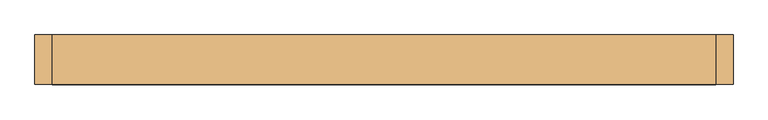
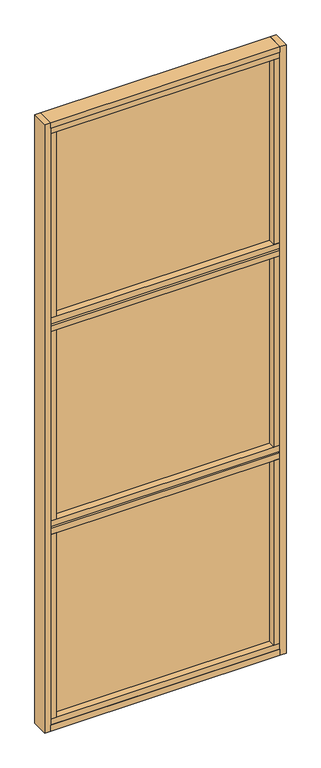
"""IFC4 building model written with IfcOpenShell, lengths in millimetres: door geometry, Mobiliário_Mobiliário de Escritório_Painel de Vidro Simples - AU3T (Completo)_Marelli : AU3T - Temperado."""

from ifc_helpers import new_model, si_unit, frame, origin, origin_with_axes, place, context, project, spatial, polyline, outline, extrude, source, transform, mapped, element, save


def door_8ee41a41(model_context):
    return source(origin(), model_context, "Body", "SweptSolid", [
        extrude(outline(polyline([(570.0, 42.5), (570.0, -42.5), (-570.0, -42.5), (-570.0, 42.5), (570.0, 42.5)])), origin_with_axes(), (0.0, 0.0, 1.0), 30.0),
        extrude(outline(polyline([(-540.0, 39.5), (-540.0, -39.5), (-570.0, -39.5), (-570.0, 39.5), (-540.0, 39.5)])), frame((0.0, 0.0, 60.0), z_axis=(0.0, 0.0, 1.0), x_axis=(1.0, 0.0, 0.0)), (0.0, 0.0, 1.0), 971.6666667),
        extrude(outline(polyline([(540.0, 39.5), (570.0, 39.5), (570.0, -39.5), (540.0, -39.5), (540.0, 39.5)])), frame((0.0, 0.0, 60.0), z_axis=(0.0, 0.0, 1.0), x_axis=(1.0, 0.0, 0.0)), (0.0, 0.0, 1.0), 971.6666667),
        extrude(outline(polyline([(570.0, 39.5), (570.0, -39.5), (-570.0, -39.5), (-570.0, 39.5), (570.0, 39.5)])), frame((0.0, 0.0, 30.0), z_axis=(0.0, 0.0, 1.0), x_axis=(1.0, 0.0, 0.0)), (0.0, 0.0, 1.0), 30.0),
        extrude(outline(polyline([(540.0, 3.0), (540.0, -3.0), (-540.0, -3.0), (-540.0, 3.0), (540.0, 3.0)])), frame((0.0, 0.0, 60.0), z_axis=(0.0, 0.0, 1.0), x_axis=(1.0, 0.0, 0.0)), (0.0, 0.0, 1.0), 971.6666667),
        extrude(outline(polyline([(570.0, 39.5), (570.0, -39.5), (-570.0, -39.5), (-570.0, 39.5), (570.0, 39.5)])), frame((0.0, 0.0, 2138.3333333), z_axis=(0.0, 0.0, 1.0), x_axis=(1.0, 0.0, 0.0)), (0.0, 0.0, 1.0), 30.0),
        extrude(outline(polyline([(570.0, 21.5), (570.0, -21.5), (-570.0, -21.5), (-570.0, 21.5), (570.0, 21.5)])), frame((0.0, 0.0, 2128.3333333), z_axis=(0.0, 0.0, 1.0), x_axis=(1.0, 0.0, 0.0)), (0.0, 0.0, 1.0), 10.0),
        extrude(outline(polyline([(570.0, 39.5), (570.0, -39.5), (-570.0, -39.5), (-570.0, 39.5), (570.0, 39.5)])), frame((0.0, 0.0, 2098.3333333), z_axis=(0.0, 0.0, 1.0), x_axis=(1.0, 0.0, 0.0)), (0.0, 0.0, 1.0), 30.0),
        extrude(outline(polyline([(570.0, 21.5), (570.0, -21.5), (-570.0, -21.5), (-570.0, 21.5), (570.0, 21.5)])), frame((0.0, 0.0, 1061.6666667), z_axis=(0.0, 0.0, 1.0), x_axis=(1.0, 0.0, 0.0)), (0.0, 0.0, 1.0), 10.0),
        extrude(outline(polyline([(570.0, 39.5), (570.0, -39.5), (-570.0, -39.5), (-570.0, 39.5), (570.0, 39.5)])), frame((0.0, 0.0, 1071.6666667), z_axis=(0.0, 0.0, 1.0), x_axis=(1.0, 0.0, 0.0)), (0.0, 0.0, 1.0), 30.0),
        extrude(outline(polyline([(570.0, 39.5), (570.0, -39.5), (-570.0, -39.5), (-570.0, 39.5), (570.0, 39.5)])), frame((0.0, 0.0, 1031.6666667), z_axis=(0.0, 0.0, 1.0), x_axis=(1.0, 0.0, 0.0)), (0.0, 0.0, 1.0), 30.0),
        extrude(outline(polyline([(570.0, 42.5), (570.0, -42.5), (-570.0, -42.5), (-570.0, 42.5), (570.0, 42.5)])), frame((0.0, 0.0, 3170.0), z_axis=(0.0, 0.0, 1.0), x_axis=(1.0, 0.0, 0.0)), (0.0, 0.0, 1.0), 30.0),
        extrude(outline(polyline([(570.0, 39.5), (570.0, -39.5), (-570.0, -39.5), (-570.0, 39.5), (570.0, 39.5)])), frame((0.0, 0.0, 3140.0), z_axis=(0.0, 0.0, 1.0), x_axis=(1.0, 0.0, 0.0)), (0.0, 0.0, 1.0), 30.0),
        extrude(outline(polyline([(-600.0, -42.5), (-600.0, 42.5), (-570.0, 42.5), (-570.0, -42.5), (-600.0, -42.5)])), origin_with_axes(), (0.0, 0.0, 1.0), 3200.0),
        extrude(outline(polyline([(600.0, -42.5), (570.0, -42.5), (570.0, 42.5), (600.0, 42.5), (600.0, -42.5)])), origin_with_axes(), (0.0, 0.0, 1.0), 3200.0),
        extrude(outline(polyline([(540.0, 3.0), (540.0, -3.0), (-540.0, -3.0), (-540.0, 3.0), (540.0, 3.0)])), frame((0.0, 0.0, 2168.3333333), z_axis=(0.0, 0.0, 1.0), x_axis=(1.0, 0.0, 0.0)), (0.0, 0.0, 1.0), 971.6666667),
        extrude(outline(polyline([(-540.0, 39.5), (-540.0, -39.5), (-570.0, -39.5), (-570.0, 39.5), (-540.0, 39.5)])), frame((0.0, 0.0, 2168.3333333), z_axis=(0.0, 0.0, 1.0), x_axis=(1.0, 0.0, 0.0)), (0.0, 0.0, 1.0), 971.6666667),
        extrude(outline(polyline([(540.0, 39.5), (570.0, 39.5), (570.0, -39.5), (540.0, -39.5), (540.0, 39.5)])), frame((0.0, 0.0, 2168.3333333), z_axis=(0.0, 0.0, 1.0), x_axis=(1.0, 0.0, 0.0)), (0.0, 0.0, 1.0), 971.6666667),
        extrude(outline(polyline([(540.0, 3.0), (540.0, -3.0), (-540.0, -3.0), (-540.0, 3.0), (540.0, 3.0)])), frame((0.0, 0.0, 1101.6666667), z_axis=(0.0, 0.0, 1.0), x_axis=(1.0, 0.0, 0.0)), (0.0, 0.0, 1.0), 996.6666667),
        extrude(outline(polyline([(-540.0, 39.5), (-540.0, -39.5), (-570.0, -39.5), (-570.0, 39.5), (-540.0, 39.5)])), frame((0.0, 0.0, 1101.6666667), z_axis=(0.0, 0.0, 1.0), x_axis=(1.0, 0.0, 0.0)), (0.0, 0.0, 1.0), 996.6666667),
        extrude(outline(polyline([(540.0, 39.5), (570.0, 39.5), (570.0, -39.5), (540.0, -39.5), (540.0, 39.5)])), frame((0.0, 0.0, 1101.6666667), z_axis=(0.0, 0.0, 1.0), x_axis=(1.0, 0.0, 0.0)), (0.0, 0.0, 1.0), 996.6666667),
    ])


if __name__ == "__main__":
    model = new_model("IFC4")
    model_context = context("Model", 3, world=origin())
    ifc_project = project(units=[si_unit("LENGTHUNIT", "METRE", prefix="MILLI")], contexts=[model_context])
    site = spatial("IfcSite", under=ifc_project)
    building = spatial("IfcBuilding", under=site)
    placement = place(None, origin())
    door_shape = door_8ee41a41(model_context)
    element("IfcDoor", 1, ObjectType="Mobiliário_Mobiliário de Escritório_Painel de Vidro Simples - AU3T (Completo)_Marelli : AU3T - Temperado", at=placement, inside=building, context=model_context, shape_type="MappedRepresentation", body=[
        mapped(door_shape, transform((0.0, 0.0, 0.0), x_axis=(1.0, 0.0, 0.0), y_axis=(0.0, 1.0, 0.0), z_axis=(0.0, 0.0, 1.0))),
    ])
    save(model, "model.ifc")
